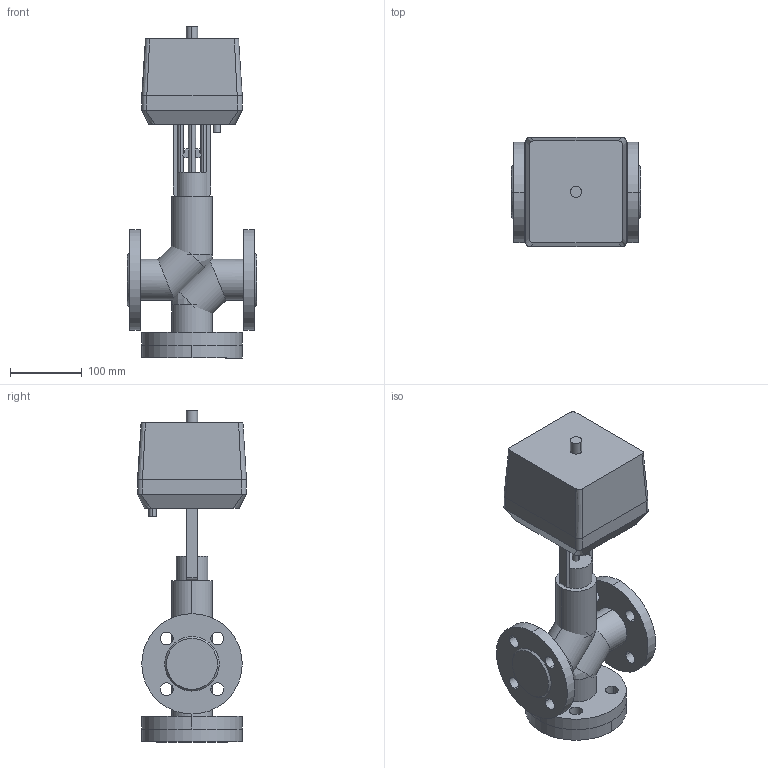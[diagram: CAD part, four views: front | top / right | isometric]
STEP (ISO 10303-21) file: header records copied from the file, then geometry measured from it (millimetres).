
FILE_DESCRIPTION(/* description */ (''),/* implementation_level */ '2;1');
FILE_NAME(/* name */ 'ТРК DN32 PN 2.5 МПа VTM-i 1000H',/* time_stamp */ '2026-07-14T23:23:02+03:00',/* author */ (''),/* organization */ (''),/* preprocessor_version */ 'ST-DEVELOPER v20',/* originating_system */ '',/* authorisation */ '');
FILE_SCHEMA (('AP242_MANAGED_MODEL_BASED_3D_ENGINEERING_MIM_LF { 1 0 10303 442 1 1 4 }'));
Length unit declared in the file: millimetre
Products named in the file (14): TopLevelAssembly; Выдавливание; Модификатор; Модификатор_1; Выдавливание_
1; Выдавливание_
2; Вращение; Выдавливание_
3; Выдавливание_
4; 1600; Переход; Объемная геометрия 
присоединена; Полый Выдавливание; Объемная геометрия 
присоединена_1
Assembly tree (13 placements, depth 2):
  TopLevelAssembly
    Выдавливание
    Модификатор
    Модификатор_1
    Выдавливание_
1
    Выдавливание_
2
    Вращение
    Выдавливание_
3
    Выдавливание_
4
    1600
    Переход
    Объемная геометрия 
присоединена
    Полый Выдавливание
    Объемная геометрия 
присоединена_1
Bounding box: 180 x 152 x 463 mm (x, y, z)
Volume: 4348617.9 mm3; surface area: 477447.5 mm2
Topology: 21 solids, 21 shells, 166 faces, 372 edges, 244 vertices
Faces by surface type: plane 78, cylinder 72, bspline 12, cone 4
Entity records: 5358 total; most frequent: CARTESIAN_POINT 1081, DIRECTION 906, ORIENTED_EDGE 728, EDGE_CURVE 364, AXIS2_PLACEMENT_3D 361, VERTEX_POINT 244, EDGE_LOOP 200, LINE 184
